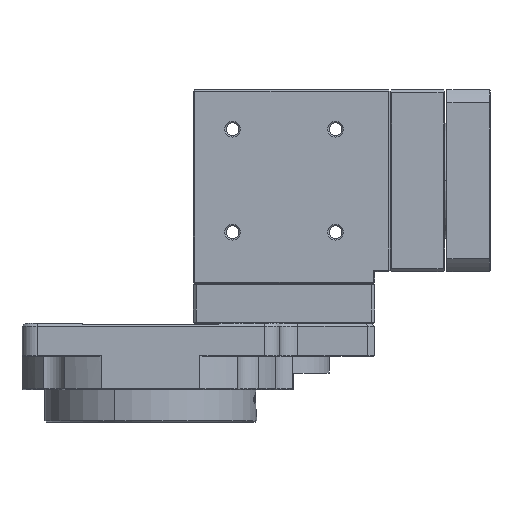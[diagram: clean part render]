
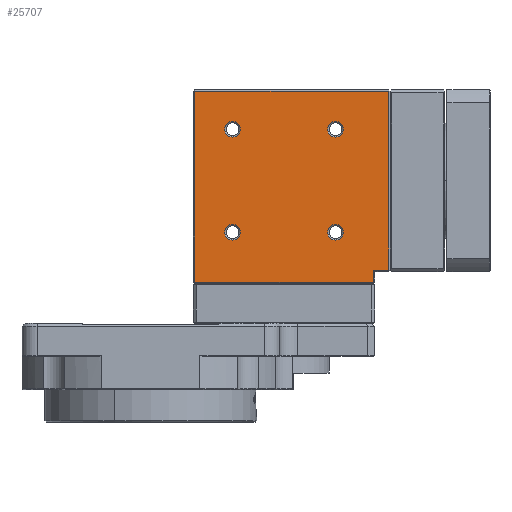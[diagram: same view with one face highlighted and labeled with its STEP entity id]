
A CAD part, left-side view. The second image highlights one B-rep face of the part: STEP entity #25707.
In plain terms, the highlighted planar face has unit normal (-1, 0, 0).
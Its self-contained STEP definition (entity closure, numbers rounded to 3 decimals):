
#269 = VECTOR ( 'NONE', #22628, 1000. ) ;
#1115 = VECTOR ( 'NONE', #15292, 1000. ) ;
#1442 = AXIS2_PLACEMENT_3D ( 'NONE', #1979, #16506, #4378 ) ;
#1605 = AXIS2_PLACEMENT_3D ( 'NONE', #24014, #17018, #14293 ) ;
#1665 = FACE_BOUND ( 'NONE', #28743, .T. ) ;
#1791 = DIRECTION ( 'NONE',  ( 0., 0., -1. ) ) ;
#1979 = CARTESIAN_POINT ( 'NONE',  ( -30., -79., 77. ) ) ;
#1994 = VECTOR ( 'NONE', #1791, 1000. ) ;
#2184 = CARTESIAN_POINT ( 'NONE',  ( -30., -14.5, 13.5 ) ) ;
#2307 = EDGE_LOOP ( 'NONE', ( #13380, #9561 ) ) ;
#2703 = ORIENTED_EDGE ( 'NONE', *, *, #31054, .T. ) ;
#3101 = VERTEX_POINT ( 'NONE', #4462 ) ;
#3307 = VERTEX_POINT ( 'NONE', #31535 ) ;
#4378 = DIRECTION ( 'NONE',  ( 0., 1., 0. ) ) ;
#4462 = CARTESIAN_POINT ( 'NONE',  ( -30., -24.4, 64. ) ) ;
#4511 = AXIS2_PLACEMENT_3D ( 'NONE', #8167, #17886, #27627 ) ;
#4841 = EDGE_LOOP ( 'NONE', ( #10943, #30760, #6485, #9571, #19745, #21574 ) ) ;
#4910 = EDGE_CURVE ( 'NONE', #25279, #20149, #8594, .T. ) ;
#5258 = EDGE_CURVE ( 'NONE', #19718, #6696, #10746, .T. ) ;
#6485 = ORIENTED_EDGE ( 'NONE', *, *, #5258, .T. ) ;
#6628 = FACE_BOUND ( 'NONE', #2307, .T. ) ;
#6696 = VERTEX_POINT ( 'NONE', #20551 ) ;
#6783 = FACE_BOUND ( 'NONE', #12601, .T. ) ;
#7439 = CARTESIAN_POINT ( 'NONE',  ( -30., -27., 64. ) ) ;
#7569 = DIRECTION ( 'NONE',  ( 1., 0., 0. ) ) ;
#7688 = EDGE_CURVE ( 'NONE', #18286, #25279, #11372, .T. ) ;
#7781 = CARTESIAN_POINT ( 'NONE',  ( -30., -14.5, 76.5 ) ) ;
#8167 = CARTESIAN_POINT ( 'NONE',  ( -30., -61., 64. ) ) ;
#8594 = LINE ( 'NONE', #10985, #269 ) ;
#8799 = DIRECTION ( 'NONE',  ( 0., 1., 0. ) ) ;
#8813 = CIRCLE ( 'NONE', #29229, 2.6 ) ;
#8850 = AXIS2_PLACEMENT_3D ( 'NONE', #10585, #7569, #20300 ) ;
#9277 = DIRECTION ( 'NONE',  ( 0., 1., 0. ) ) ;
#9303 = EDGE_CURVE ( 'NONE', #18954, #19091, #12286, .T. ) ;
#9561 = ORIENTED_EDGE ( 'NONE', *, *, #22217, .T. ) ;
#9571 = ORIENTED_EDGE ( 'NONE', *, *, #29506, .T. ) ;
#9588 = LINE ( 'NONE', #17404, #27450 ) ;
#9613 = CARTESIAN_POINT ( 'NONE',  ( -30., -63.6, 30. ) ) ;
#9755 = ORIENTED_EDGE ( 'NONE', *, *, #9303, .T. ) ;
#9875 = DIRECTION ( 'NONE',  ( 1., 0., 0. ) ) ;
#10580 = AXIS2_PLACEMENT_3D ( 'NONE', #7439, #24966, #19704 ) ;
#10585 = CARTESIAN_POINT ( 'NONE',  ( -30., -27., 30. ) ) ;
#10746 = LINE ( 'NONE', #11064, #29886 ) ;
#10943 = ORIENTED_EDGE ( 'NONE', *, *, #4910, .T. ) ;
#10985 = CARTESIAN_POINT ( 'NONE',  ( -30., -74., 13.5 ) ) ;
#11035 = CARTESIAN_POINT ( 'NONE',  ( -30., -29.6, 30. ) ) ;
#11064 = CARTESIAN_POINT ( 'NONE',  ( -30., -79., 17.5 ) ) ;
#11372 = LINE ( 'NONE', #21093, #1994 ) ;
#11723 = ORIENTED_EDGE ( 'NONE', *, *, #13197, .T. ) ;
#12082 = AXIS2_PLACEMENT_3D ( 'NONE', #21240, #28932, #9277 ) ;
#12286 = CIRCLE ( 'NONE', #16365, 2.6 ) ;
#12601 = EDGE_LOOP ( 'NONE', ( #11723, #29545 ) ) ;
#13197 = EDGE_CURVE ( 'NONE', #18964, #17993, #27726, .T. ) ;
#13380 = ORIENTED_EDGE ( 'NONE', *, *, #16652, .T. ) ;
#13394 = VERTEX_POINT ( 'NONE', #19151 ) ;
#13469 = CARTESIAN_POINT ( 'NONE',  ( -30., -73.5, 17.5 ) ) ;
#14062 = CARTESIAN_POINT ( 'NONE',  ( -30., -79., 76.5 ) ) ;
#14293 = DIRECTION ( 'NONE',  ( 0., 1., 0. ) ) ;
#14541 = DIRECTION ( 'NONE',  ( 0., 1., 0. ) ) ;
#14807 = CARTESIAN_POINT ( 'NONE',  ( -30., -27., 30. ) ) ;
#14926 = VERTEX_POINT ( 'NONE', #31431 ) ;
#15292 = DIRECTION ( 'NONE',  ( 0., 0., 1. ) ) ;
#16318 = CARTESIAN_POINT ( 'NONE',  ( -30., -24.4, 30. ) ) ;
#16345 = FACE_BOUND ( 'NONE', #18908, .T. ) ;
#16365 = AXIS2_PLACEMENT_3D ( 'NONE', #29099, #17107, #19320 ) ;
#16395 = CIRCLE ( 'NONE', #1605, 2.6 ) ;
#16475 = EDGE_CURVE ( 'NONE', #20149, #19718, #20222, .T. ) ;
#16506 = DIRECTION ( 'NONE',  ( -1., 0., 0. ) ) ;
#16652 = EDGE_CURVE ( 'NONE', #3101, #14926, #16395, .T. ) ;
#17018 = DIRECTION ( 'NONE',  ( 1., 0., 0. ) ) ;
#17107 = DIRECTION ( 'NONE',  ( 1., 0., 0. ) ) ;
#17404 = CARTESIAN_POINT ( 'NONE',  ( -30., -78.5, 77. ) ) ;
#17701 = VECTOR ( 'NONE', #14541, 1000. ) ;
#17886 = DIRECTION ( 'NONE',  ( 1., 0., 0. ) ) ;
#17993 = VERTEX_POINT ( 'NONE', #11035 ) ;
#18286 = VERTEX_POINT ( 'NONE', #7781 ) ;
#18538 = DIRECTION ( 'NONE',  ( 0., -1., 0. ) ) ;
#18671 = CARTESIAN_POINT ( 'NONE',  ( -30., -73.5, 13.5 ) ) ;
#18908 = EDGE_LOOP ( 'NONE', ( #2703, #9755 ) ) ;
#18954 = VERTEX_POINT ( 'NONE', #9613 ) ;
#18964 = VERTEX_POINT ( 'NONE', #16318 ) ;
#19091 = VERTEX_POINT ( 'NONE', #22053 ) ;
#19106 = DIRECTION ( 'NONE',  ( 0., 1., 0. ) ) ;
#19151 = CARTESIAN_POINT ( 'NONE',  ( -30., -58.4, 64. ) ) ;
#19156 = EDGE_CURVE ( 'NONE', #13394, #3307, #8813, .T. ) ;
#19320 = DIRECTION ( 'NONE',  ( 0., 1., 0. ) ) ;
#19704 = DIRECTION ( 'NONE',  ( 0., 1., 0. ) ) ;
#19718 = VERTEX_POINT ( 'NONE', #13469 ) ;
#19745 = ORIENTED_EDGE ( 'NONE', *, *, #31001, .T. ) ;
#20149 = VERTEX_POINT ( 'NONE', #18671 ) ;
#20222 = LINE ( 'NONE', #27264, #1115 ) ;
#20300 = DIRECTION ( 'NONE',  ( 0., 1., 0. ) ) ;
#20551 = CARTESIAN_POINT ( 'NONE',  ( -30., -78.5, 17.5 ) ) ;
#20813 = AXIS2_PLACEMENT_3D ( 'NONE', #14807, #9875, #19106 ) ;
#21093 = CARTESIAN_POINT ( 'NONE',  ( -30., -14.5, 13. ) ) ;
#21240 = CARTESIAN_POINT ( 'NONE',  ( -30., -61., 30. ) ) ;
#21278 = PLANE ( 'NONE',  #1442 ) ;
#21574 = ORIENTED_EDGE ( 'NONE', *, *, #7688, .T. ) ;
#22053 = CARTESIAN_POINT ( 'NONE',  ( -30., -58.4, 30. ) ) ;
#22217 = EDGE_CURVE ( 'NONE', #14926, #3101, #22804, .T. ) ;
#22628 = DIRECTION ( 'NONE',  ( 0., -1., 0. ) ) ;
#22804 = CIRCLE ( 'NONE', #10580, 2.6 ) ;
#22839 = DIRECTION ( 'NONE',  ( 1., 0., 0. ) ) ;
#23850 = CIRCLE ( 'NONE', #4511, 2.6 ) ;
#24014 = CARTESIAN_POINT ( 'NONE',  ( -30., -27., 64. ) ) ;
#24234 = EDGE_CURVE ( 'NONE', #3307, #13394, #23850, .T. ) ;
#24895 = CIRCLE ( 'NONE', #20813, 2.6 ) ;
#24966 = DIRECTION ( 'NONE',  ( 1., 0., 0. ) ) ;
#25074 = CARTESIAN_POINT ( 'NONE',  ( -30., -61., 64. ) ) ;
#25164 = ORIENTED_EDGE ( 'NONE', *, *, #24234, .T. ) ;
#25279 = VERTEX_POINT ( 'NONE', #2184 ) ;
#25340 = CIRCLE ( 'NONE', #12082, 2.6 ) ;
#25568 = CARTESIAN_POINT ( 'NONE',  ( -30., -78.5, 76.5 ) ) ;
#25707 = ADVANCED_FACE ( 'NONE', ( #1665, #6628, #6783, #16345, #26068 ), #21278, .T. ) ;
#26068 = FACE_OUTER_BOUND ( 'NONE', #4841, .T. ) ;
#26525 = ORIENTED_EDGE ( 'NONE', *, *, #19156, .T. ) ;
#27142 = DIRECTION ( 'NONE',  ( 0., 0., 1. ) ) ;
#27264 = CARTESIAN_POINT ( 'NONE',  ( -30., -73.5, 17. ) ) ;
#27450 = VECTOR ( 'NONE', #27142, 1000. ) ;
#27627 = DIRECTION ( 'NONE',  ( 0., 1., 0. ) ) ;
#27726 = CIRCLE ( 'NONE', #8850, 2.6 ) ;
#28743 = EDGE_LOOP ( 'NONE', ( #26525, #25164 ) ) ;
#28763 = LINE ( 'NONE', #14062, #17701 ) ;
#28932 = DIRECTION ( 'NONE',  ( 1., 0., 0. ) ) ;
#29099 = CARTESIAN_POINT ( 'NONE',  ( -30., -61., 30. ) ) ;
#29229 = AXIS2_PLACEMENT_3D ( 'NONE', #25074, #22839, #8799 ) ;
#29506 = EDGE_CURVE ( 'NONE', #6696, #30967, #9588, .T. ) ;
#29545 = ORIENTED_EDGE ( 'NONE', *, *, #29738, .T. ) ;
#29738 = EDGE_CURVE ( 'NONE', #17993, #18964, #24895, .T. ) ;
#29886 = VECTOR ( 'NONE', #18538, 1000. ) ;
#30760 = ORIENTED_EDGE ( 'NONE', *, *, #16475, .T. ) ;
#30967 = VERTEX_POINT ( 'NONE', #25568 ) ;
#31001 = EDGE_CURVE ( 'NONE', #30967, #18286, #28763, .T. ) ;
#31054 = EDGE_CURVE ( 'NONE', #19091, #18954, #25340, .T. ) ;
#31431 = CARTESIAN_POINT ( 'NONE',  ( -30., -29.6, 64. ) ) ;
#31535 = CARTESIAN_POINT ( 'NONE',  ( -30., -63.6, 64. ) ) ;
